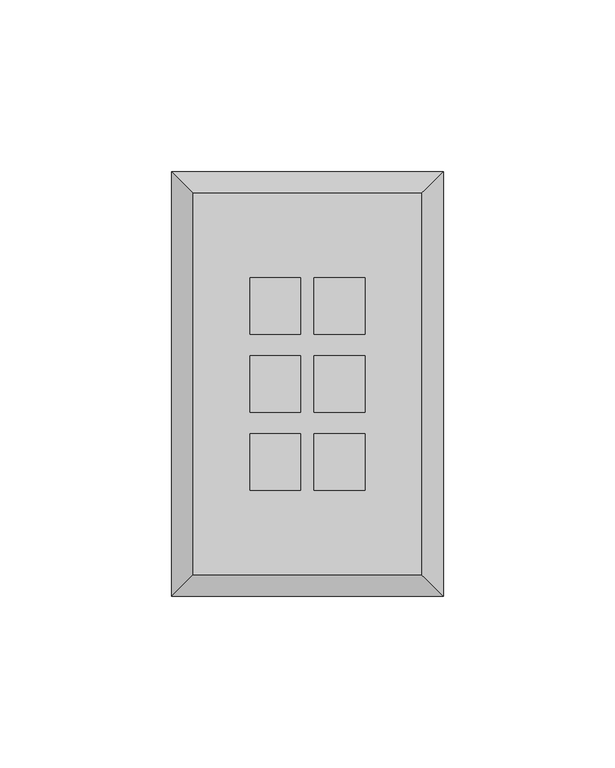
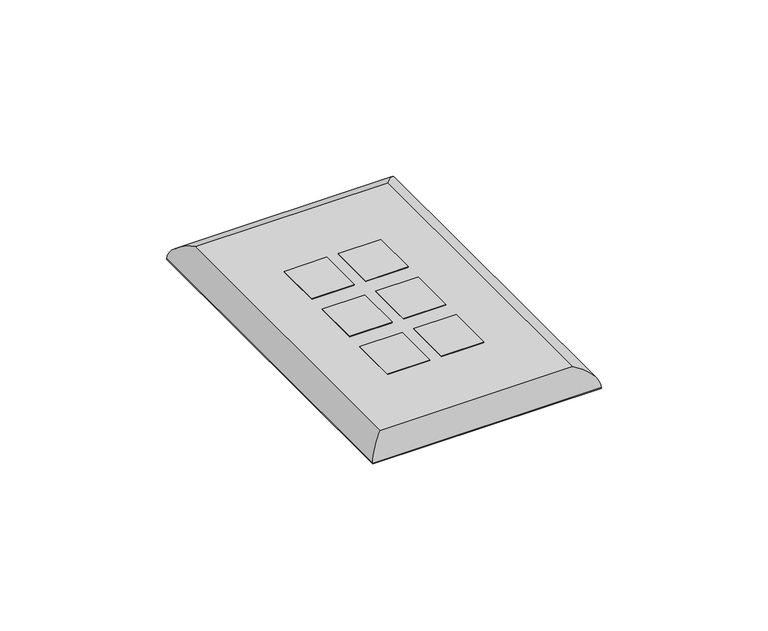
"""IFC4 building model written with IfcOpenShell, lengths in millimetres: electric appliance geometry, Data_Device-Work_Area-Leviton-QuickPort-Wallplate : 6 Ports, Single Gang, Midsize."""

import ifcopenshell
import ifcopenshell.guid

model = None  # the IFC model being written
_history = None  # IfcOwnerHistory: only IFC2X3 demands one
_inside = {}  # id of a spatial element -> (the spatial element, [elements in it])
_under = {}  # id of a project, library or spatial element -> (it, [spatial elements below it])
_declared = {}  # id of a project -> (the project, [libraries it declares])
_typed = {}  # id of a type object -> (the type object, [elements of that type])
_made_of = {}  # id of a material, layer set ... -> (it, [elements and type objects made of it])


def new_model(schema):
    """Start an empty IFC model of exactly this schema.

    Asked for "IFC4X3", IfcOpenShell would pick the latest addendum, in which some entities
    have other attributes; the version numbers below select the first issue.
    IFC2X3 requires an IfcOwnerHistory on every rooted entity: one is made here for all.
    """
    global model, _history
    if schema == "IFC4X3":
        model = ifcopenshell.file(schema_version=(4, 3, 0, 0))
    else:
        model = ifcopenshell.file(schema=schema)
    _inside.clear()
    _under.clear()
    _declared.clear()
    _typed.clear()
    _made_of.clear()
    _history = None
    if model.schema == "IFC2X3":
        org = make("IfcOrganization", Name="unknown")
        user = make(
            "IfcPersonAndOrganization",
            ThePerson=make("IfcPerson", FamilyName="unknown"),
            TheOrganization=org,
        )
        app = make(
            "IfcApplication",
            ApplicationDeveloper=org,
            Version="unknown",
            ApplicationFullName="unknown",
            ApplicationIdentifier="unknown",
        )
        _history = make(
            "IfcOwnerHistory",
            OwningUser=user,
            OwningApplication=app,
            ChangeAction="ADDED",
            CreationDate=0,
        )
    return model


def make(cls, **values):
    """One entity of the class cls with the attributes given. An attribute that is None is left unset."""
    return model.create_entity(
        cls, **{name: value for name, value in values.items() if value is not None}
    )


def rooted(cls, **values):
    """An entity with a GlobalId (a new one), such as an element, a storey or a relation."""
    return make(cls, GlobalId=ifcopenshell.guid.new(), OwnerHistory=_history, **values)


def si_unit(unit_type, name, prefix=None):
    """IfcSIUnit, for example si_unit("LENGTHUNIT", "METRE", prefix="MILLI")."""
    return make("IfcSIUnit", UnitType=unit_type, Prefix=prefix, Name=name)


def assignment(units):
    """IfcUnitAssignment: the units of a project."""
    return None if units is None else make("IfcUnitAssignment", Units=units)


def point(xyz):
    """IfcCartesianPoint."""
    return None if xyz is None else make("IfcCartesianPoint", Coordinates=xyz)


def direction(xyz):
    """IfcDirection."""
    return None if xyz is None else make("IfcDirection", DirectionRatios=xyz)


def frame(location, z_axis=None, x_axis=None):
    """IfcAxis2Placement3D, a coordinate frame: its origin and axes. An axis left out is left unset."""
    return make(
        "IfcAxis2Placement3D",
        Location=point(location),
        Axis=direction(z_axis),
        RefDirection=direction(x_axis),
    )


def origin():
    """The frame at (0, 0, 0) with its axes left unset."""
    return frame((0.0, 0.0, 0.0))


def origin_with_axes():
    """The frame at (0, 0, 0) with the z axis (0, 0, 1) and the x axis (1, 0, 0) written out."""
    return frame((0.0, 0.0, 0.0), z_axis=(0.0, 0.0, 1.0), x_axis=(1.0, 0.0, 0.0))


def place(relative_to, where):
    """IfcLocalPlacement: puts the frame where relative to a parent placement (None: the world)."""
    return make(
        "IfcLocalPlacement", PlacementRelTo=relative_to, RelativePlacement=where
    )


def context(
    kind, dimensions, precision=None, world=None, true_north=None, identifier=None
):
    """IfcGeometricRepresentationContext, for example the 3D "Model" context."""
    return make(
        "IfcGeometricRepresentationContext",
        ContextIdentifier=identifier,
        ContextType=kind,
        CoordinateSpaceDimension=dimensions,
        Precision=precision,
        WorldCoordinateSystem=world,
        TrueNorth=true_north,
    )


def project(units=None, contexts=None):
    """IfcProject with its units and contexts."""
    return rooted(
        "IfcProject",
        Name="project",
        RepresentationContexts=contexts,
        UnitsInContext=assignment(units),
    )


def spatial(cls, under=None, at=None, **own):
    """A site, building, storey or space (cls), placed at a placement, below another one or the project."""
    s = rooted(cls, ObjectPlacement=at, **own)
    if under is not None:
        _under.setdefault(under.id(), (under, []))[1].append(s)
    return s


def polyline(points):
    """IfcPolyline through the points."""
    return make("IfcPolyline", Points=[point(p) for p in points])


def ellipse_curve(where, semi_axis1, semi_axis2):
    """IfcEllipse in the frame where."""
    return make(
        "IfcEllipse", Position=where, SemiAxis1=semi_axis1, SemiAxis2=semi_axis2
    )


def outline(outer, holes=None, kind="AREA"):
    """IfcArbitraryClosedProfileDef: a profile drawn as a closed curve; with holes, ...WithVoids."""
    if holes is None:
        return make("IfcArbitraryClosedProfileDef", ProfileType=kind, OuterCurve=outer)
    return make(
        "IfcArbitraryProfileDefWithVoids",
        ProfileType=kind,
        OuterCurve=outer,
        InnerCurves=holes,
    )


def extrude(swept, where, along, depth):
    """IfcExtrudedAreaSolid: the profile swept, set in the frame where, extruded along a direction by depth."""
    return make(
        "IfcExtrudedAreaSolid",
        SweptArea=swept,
        Position=where,
        ExtrudedDirection=direction(along),
        Depth=depth,
    )


def shape(context_of_items, identifier, shape_type, items):
    """IfcShapeRepresentation: the items that make up one representation, for example the "Body"."""
    return make(
        "IfcShapeRepresentation",
        ContextOfItems=context_of_items,
        RepresentationIdentifier=identifier,
        RepresentationType=shape_type,
        Items=items,
    )


def source(mapping_origin, context_of_items, identifier, shape_type, items):
    """IfcRepresentationMap: a shape defined once, which mapped items show again and again."""
    return make(
        "IfcRepresentationMap",
        MappingOrigin=mapping_origin,
        MappedRepresentation=shape(context_of_items, identifier, shape_type, items),
    )


def transform(
    local_origin,
    x_axis=None,
    y_axis=None,
    z_axis=None,
    scale=None,
    scale2=None,
    scale3=None,
    uniform=True,
):
    """IfcCartesianTransformationOperator3D, or its non-uniform kind. x_axis, y_axis, z_axis: its Axis1, 2, 3."""
    if uniform:
        return make(
            "IfcCartesianTransformationOperator3D",
            Axis1=direction(x_axis),
            Axis2=direction(y_axis),
            LocalOrigin=point(local_origin),
            Scale=scale,
            Axis3=direction(z_axis),
        )
    return make(
        "IfcCartesianTransformationOperator3DnonUniform",
        Axis1=direction(x_axis),
        Axis2=direction(y_axis),
        LocalOrigin=point(local_origin),
        Scale=scale,
        Axis3=direction(z_axis),
        Scale2=scale2,
        Scale3=scale3,
    )


def mapped(mapping_source, mapping_target):
    """IfcMappedItem: shows the shape of a source again, moved by a transform."""
    return make(
        "IfcMappedItem", MappingSource=mapping_source, MappingTarget=mapping_target
    )


def made_of(thing, what):
    """Note that an element or type object is made of a material, layer set ...; save() writes the relation."""
    if what is not None:
        _made_of.setdefault(what.id(), (what, []))[1].append(thing)
    return thing


def element(
    cls,
    number,
    at=None,
    inside=None,
    cuts=None,
    type_object=None,
    material=None,
    context=None,
    identifier="Body",
    shape_type=None,
    held_by="IfcProductDefinitionShape",
    body=None,
    shapes=None,
    **own,
):
    """One element of the class cls, such as IfcWall. Its Tag is "e" and its number.

    at: its placement. inside: the storey or other place that contains it. cuts: it is an
    opening in that element (IfcRelVoidsElement). A single representation is given by context,
    identifier, shape_type and body (its items); several are given by shapes. held_by: the class
    of the entity that holds the representations. save() writes the other relations.
    """
    e = rooted(cls, Tag="e%d" % number, ObjectPlacement=at, **own)
    if body is not None:
        shapes = [shape(context, identifier, shape_type, body)]
    if shapes is not None:
        e.Representation = make(held_by, Representations=shapes)
    if inside is not None:
        _inside.setdefault(inside.id(), (inside, []))[1].append(e)
    if cuts is not None:
        rooted(
            "IfcRelVoidsElement", RelatingBuildingElement=cuts, RelatedOpeningElement=e
        )
    if type_object is not None:
        _typed.setdefault(type_object.id(), (type_object, []))[1].append(e)
    return made_of(e, material)


def aggregate(whole, parts):
    """IfcRelAggregates: a whole, such as a stair, and the parts it consists of."""
    return rooted("IfcRelAggregates", RelatingObject=whole, RelatedObjects=parts)


def save(model, path):
    """Write the relations noted so far, then the file.

    IfcRelAggregates (storeys below a building ...), IfcRelContainedInSpatialStructure (elements
    in a storey), IfcRelDefinesByType, IfcRelAssociatesMaterial and IfcRelDeclares: one each for
    every whole, place, type object, material and project.
    """
    for whole, parts in _under.values():
        aggregate(whole, parts)
    for where, things in _inside.values():
        rooted(
            "IfcRelContainedInSpatialStructure",
            RelatedElements=things,
            RelatingStructure=where,
        )
    for kind, things in _typed.values():
        rooted("IfcRelDefinesByType", RelatedObjects=things, RelatingType=kind)
    for what, things in _made_of.values():
        rooted("IfcRelAssociatesMaterial", RelatedObjects=things, RelatingMaterial=what)
    for by, libraries in _declared.values():
        rooted("IfcRelDeclares", RelatingContext=by, RelatedDefinitions=libraries)
    model.write(path)


def plane_surface(at):
    """IfcPlane: the flat surface through the origin of the frame at, square to its z axis."""
    return make("IfcPlane", Position=at)


def cylinder_surface(at, radius):
    """IfcCylindricalSurface: all points at the distance radius from the z axis of the frame at."""
    return make("IfcCylindricalSurface", Position=at, Radius=radius)


def advanced_brep(points, edges, surfaces, faces):
    """IfcAdvancedBrep: a solid bounded by faces that lie on surfaces and meet in shared edges.

    An edge is (start, end): straight between two places in points (the first is 0);
    or (start, end, curve); or (start, end, curve, False) where it runs against its curve.
    A face is (place in surfaces, loops), or (place, loops, False) where it looks against
    its surface's normal. A loop lists edges by number (the first is 1), with a minus sign
    where the edge is run from its end to its start. The first loop is the outer one.
    """
    corners = [point(p) for p in points]
    vertices = [make("IfcVertexPoint", VertexGeometry=c) for c in corners]
    made = []
    for start, end, *more in edges:
        made.append(
            make(
                "IfcEdgeCurve",
                EdgeStart=vertices[start],
                EdgeEnd=vertices[end],
                EdgeGeometry=more[0] if more else make("IfcPolyline", Points=[corners[start], corners[end]]),
                SameSense=more[1] if len(more) > 1 else True,
            )
        )
    hull = []
    for where, loops, *sense in faces:
        bounds = []
        for j, loop in enumerate(loops):
            ring = [make("IfcOrientedEdge", EdgeElement=made[abs(k) - 1], Orientation=k > 0) for k in loop]
            bounds.append(
                make(
                    "IfcFaceOuterBound" if j == 0 else "IfcFaceBound",
                    Bound=make("IfcEdgeLoop", EdgeList=ring),
                    Orientation=True,
                )
            )
        hull.append(make("IfcAdvancedFace", Bounds=bounds, FaceSurface=surfaces[where], SameSense=sense[0] if sense else True))
    return make("IfcAdvancedBrep", Outer=make("IfcClosedShell", CfsFaces=hull))


def electric_appliance_a91dbcae(model_context):
    return source(origin(), model_context, "Body", "SolidModel", [
        extrude(outline(polyline([(-24.9936, 16.4465), (-24.9936, -0.0635), (-39.7256, -0.0635), (-39.7256, 16.4465), (-24.9936, 16.4465)])), origin_with_axes(), (0.0, 0.0, 1.0), 6.35),
        extrude(outline(polyline([(-24.9936, 39.1795), (-24.9936, 22.6695), (-39.7256, 22.6695), (-39.7256, 39.1795), (-24.9936, 39.1795)])), origin_with_axes(), (0.0, 0.0, 1.0), 6.35),
        extrude(outline(polyline([(-24.9936, -6.2865), (-24.9936, -22.7965), (-39.7256, -22.7965), (-39.7256, -6.2865), (-24.9936, -6.2865)])), origin_with_axes(), (0.0, 0.0, 1.0), 6.35),
        extrude(outline(polyline([(-6.3246, 16.4465), (-6.3246, -0.0635), (-21.0566, -0.0635), (-21.0566, 16.4465), (-6.3246, 16.4465)])), origin_with_axes(), (0.0, 0.0, 1.0), 6.35),
        extrude(outline(polyline([(-6.3246, 39.1795), (-6.3246, 22.6695), (-21.0566, 22.6695), (-21.0566, 39.1795), (-6.3246, 39.1795)])), origin_with_axes(), (0.0, 0.0, 1.0), 6.35),
        extrude(outline(polyline([(-6.3246, -6.2865), (-6.3246, -22.7965), (-21.0566, -22.7965), (-21.0566, -6.2865), (-6.3246, -6.2865)])), origin_with_axes(), (0.0, 0.0, 1.0), 6.35),
        advanced_brep(
        [(10.2489, -47.3075, 6.35), (10.2489, 63.6905, 6.35), (-56.2991, 63.6905, 6.35), (-56.2991, -47.3075, 6.35), (-39.7256, 39.1795, 6.35), (-24.9936, 39.1795, 6.35), (-24.9936, 22.6695, 6.35), (-39.7256, 22.6695, 6.35), (-39.7256, 16.4465, 6.35), (-24.9936, 16.4465, 6.35), (-24.9936, -0.0635, 6.35), (-39.7256, -0.0635, 6.35), (-39.7256, -6.2865, 6.35), (-24.9936, -6.2865, 6.35), (-24.9936, -22.7965, 6.35), (-39.7256, -22.7965, 6.35), (-21.0566, 39.1795, 6.35), (-6.3246, 39.1795, 6.35), (-6.3246, 22.6695, 6.35), (-21.0566, 22.6695, 6.35), (-21.0566, 16.4465, 6.35), (-6.3246, 16.4465, 6.35), (-6.3246, -0.0635, 6.35), (-21.0566, -0.0635, 6.35), (-21.0566, -6.2865, 6.35), (-6.3246, -6.2865, 6.35), (-6.3246, -22.7965, 6.35), (-21.0566, -22.7965, 6.35), (16.5989, 70.0405, 0.0), (16.5989, -53.6575, 0.0), (-62.6491, -53.6575, 0.0), (-62.6491, 70.0405, 0.0), (-24.9936, 39.1795, 0.0), (-39.7256, 39.1795, 0.0), (-39.7256, 22.6695, 0.0), (-24.9936, 22.6695, 0.0), (-24.9936, 16.4465, 0.0), (-39.7256, 16.4465, 0.0), (-39.7256, -0.0635, 0.0), (-24.9936, -0.0635, 0.0), (-24.9936, -6.2865, 0.0), (-39.7256, -6.2865, 0.0), (-39.7256, -22.7965, 0.0), (-24.9936, -22.7965, 0.0), (-6.3246, 39.1795, 0.0), (-21.0566, 39.1795, 0.0), (-21.0566, 22.6695, 0.0), (-6.3246, 22.6695, 0.0), (-6.3246, 16.4465, 0.0), (-21.0566, 16.4465, 0.0), (-21.0566, -0.0635, 0.0), (-6.3246, -0.0635, 0.0), (-6.3246, -6.2865, 0.0), (-21.0566, -6.2865, 0.0), (-21.0566, -22.7965, 0.0), (-6.3246, -22.7965, 0.0), (-62.6491, 70.0405, 0.254), (16.5989, 70.0405, 0.254), (-62.6491, -53.6575, 0.254), (16.5989, -53.6575, 0.254)],
        [
            (0, 1),
            (1, 2),
            (2, 3),
            (3, 0),
            (4, 5),
            (5, 6),
            (6, 7),
            (7, 4),
            (8, 9),
            (9, 10),
            (10, 11),
            (11, 8),
            (12, 13),
            (13, 14),
            (14, 15),
            (15, 12),
            (16, 17),
            (17, 18),
            (18, 19),
            (19, 16),
            (20, 21),
            (21, 22),
            (22, 23),
            (23, 20),
            (24, 25),
            (25, 26),
            (26, 27),
            (27, 24),
            (28, 29),
            (29, 30),
            (30, 31),
            (31, 28),
            (32, 33),
            (33, 34),
            (34, 35),
            (35, 32),
            (36, 37),
            (37, 38),
            (38, 39),
            (39, 36),
            (40, 41),
            (41, 42),
            (42, 43),
            (43, 40),
            (44, 45),
            (45, 46),
            (46, 47),
            (47, 44),
            (48, 49),
            (49, 50),
            (50, 51),
            (51, 48),
            (52, 53),
            (53, 54),
            (54, 55),
            (55, 52),
            (31, 56),
            (56, 57),
            (57, 28),
            (30, 58),
            (58, 56),
            (29, 59),
            (59, 58),
            (57, 59),
            (4, 33),
            (32, 5),
            (7, 34),
            (6, 35),
            (8, 37),
            (36, 9),
            (11, 38),
            (10, 39),
            (12, 41),
            (40, 13),
            (15, 42),
            (14, 43),
            (16, 45),
            (44, 17),
            (19, 46),
            (18, 47),
            (20, 49),
            (48, 21),
            (23, 50),
            (22, 51),
            (24, 53),
            (52, 25),
            (27, 54),
            (26, 55),
            (0, 59, ellipse_curve(frame((10.2489, -47.3075, -0.0052917), z_axis=(0.7071067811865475, 0.7071067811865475, 0.0), x_axis=(0.7071067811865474, -0.7071067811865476, 0.0)), 8.9877397, 6.3552917)),
            (57, 1, ellipse_curve(frame((10.2489, 63.6905, -0.0052917), z_axis=(0.7071067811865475, -0.7071067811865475, 0.0), x_axis=(-0.7071067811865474, -0.7071067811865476, 0.0)), 8.9877397, 6.3552917)),
            (3, 58, ellipse_curve(frame((-56.2991, -47.3075, -0.0052917), z_axis=(0.7071067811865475, -0.7071067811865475, 0.0), x_axis=(-0.7071067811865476, -0.7071067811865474, 0.0)), 8.9877397, 6.3552917)),
            (2, 56, ellipse_curve(frame((-56.2991, 63.6905, -0.0052917), z_axis=(-0.7071067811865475, -0.7071067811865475, 0.0), x_axis=(-0.7071067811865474, 0.7071067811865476, 0.0)), 8.9877397, 6.3552917)),
        ],
        [
            plane_surface(frame((-62.6491, 70.0405, 6.35), z_axis=(0.0, 0.0, 1.0), x_axis=(-1.0, 0.0, 0.0))),
            plane_surface(frame((-62.6491, 70.0405, 0.0), z_axis=(0.0, 0.0, -1.0), x_axis=(1.0, 0.0, 0.0))),
            plane_surface(frame((16.5989, 70.0405, 6.35), z_axis=(0.0, 1.0, 0.0), x_axis=(0.0, 0.0, -1.0))),
            plane_surface(frame((-62.6491, 70.0405, 6.35), z_axis=(-1.0, 0.0, 0.0), x_axis=(0.0, 0.0, -1.0))),
            plane_surface(frame((-62.6491, -53.6575, 6.35), z_axis=(0.0, -1.0, 0.0), x_axis=(0.0, 0.0, -1.0))),
            plane_surface(frame((16.5989, -53.6575, 6.35), z_axis=(1.0, 0.0, 0.0), x_axis=(0.0, 0.0, -1.0))),
            plane_surface(frame((-24.9936, 39.1795, 6.35), z_axis=(0.0, -1.0, 0.0), x_axis=(0.0, 0.0, -1.0))),
            plane_surface(frame((-39.7256, 39.1795, 6.35), z_axis=(1.0, 0.0, 0.0), x_axis=(0.0, 0.0, -1.0))),
            plane_surface(frame((-39.7256, 22.6695, 6.35), z_axis=(0.0, 1.0, 0.0), x_axis=(0.0, 0.0, -1.0))),
            plane_surface(frame((-24.9936, 22.6695, 6.35), z_axis=(-1.0, 0.0, 0.0), x_axis=(0.0, 0.0, -1.0))),
            plane_surface(frame((-24.9936, 16.4465, 6.35), z_axis=(0.0, -1.0, 0.0), x_axis=(0.0, 0.0, -1.0))),
            plane_surface(frame((-39.7256, 16.4465, 6.35), z_axis=(1.0, 0.0, 0.0), x_axis=(0.0, 0.0, -1.0))),
            plane_surface(frame((-39.7256, -0.0635, 6.35), z_axis=(0.0, 1.0, 0.0), x_axis=(0.0, 0.0, -1.0))),
            plane_surface(frame((-24.9936, -0.0635, 6.35), z_axis=(-1.0, 0.0, 0.0), x_axis=(0.0, 0.0, -1.0))),
            plane_surface(frame((-24.9936, -6.2865, 6.35), z_axis=(0.0, -1.0, 0.0), x_axis=(0.0, 0.0, -1.0))),
            plane_surface(frame((-39.7256, -6.2865, 6.35), z_axis=(1.0, 0.0, 0.0), x_axis=(0.0, 0.0, -1.0))),
            plane_surface(frame((-39.7256, -22.7965, 6.35), z_axis=(0.0, 1.0, 0.0), x_axis=(0.0, 0.0, -1.0))),
            plane_surface(frame((-24.9936, -22.7965, 6.35), z_axis=(-1.0, 0.0, 0.0), x_axis=(0.0, 0.0, -1.0))),
            plane_surface(frame((-6.3246, 39.1795, 6.35), z_axis=(0.0, -1.0, 0.0), x_axis=(0.0, 0.0, -1.0))),
            plane_surface(frame((-21.0566, 39.1795, 6.35), z_axis=(1.0, 0.0, 0.0), x_axis=(0.0, 0.0, -1.0))),
            plane_surface(frame((-21.0566, 22.6695, 6.35), z_axis=(0.0, 1.0, 0.0), x_axis=(0.0, 0.0, -1.0))),
            plane_surface(frame((-6.3246, 22.6695, 6.35), z_axis=(-1.0, 0.0, 0.0), x_axis=(0.0, 0.0, -1.0))),
            plane_surface(frame((-6.3246, 16.4465, 6.35), z_axis=(0.0, -1.0, 0.0), x_axis=(0.0, 0.0, -1.0))),
            plane_surface(frame((-21.0566, 16.4465, 6.35), z_axis=(1.0, 0.0, 0.0), x_axis=(0.0, 0.0, -1.0))),
            plane_surface(frame((-21.0566, -0.0635, 6.35), z_axis=(0.0, 1.0, 0.0), x_axis=(0.0, 0.0, -1.0))),
            plane_surface(frame((-6.3246, -0.0635, 6.35), z_axis=(-1.0, 0.0, 0.0), x_axis=(0.0, 0.0, -1.0))),
            plane_surface(frame((-6.3246, -6.2865, 6.35), z_axis=(0.0, -1.0, 0.0), x_axis=(0.0, 0.0, -1.0))),
            plane_surface(frame((-21.0566, -6.2865, 6.35), z_axis=(1.0, 0.0, 0.0), x_axis=(0.0, 0.0, -1.0))),
            plane_surface(frame((-21.0566, -22.7965, 6.35), z_axis=(0.0, 1.0, 0.0), x_axis=(0.0, 0.0, -1.0))),
            plane_surface(frame((-6.3246, -22.7965, 6.35), z_axis=(-1.0, 0.0, 0.0), x_axis=(0.0, 0.0, -1.0))),
            cylinder_surface(frame((10.2489, 70.0405, -0.0052917), z_axis=(0.0, -1.0, 0.0), x_axis=(1.0, 0.0, 0.0)), 6.3552917),
            cylinder_surface(frame((16.5989, -47.3075, -0.0052917), z_axis=(-1.0, 0.0, 0.0), x_axis=(0.0, -1.0, 0.0)), 6.3552917),
            cylinder_surface(frame((-56.2991, -53.6575, -0.0052917), z_axis=(0.0, 1.0, 0.0), x_axis=(-1.0, 0.0, 0.0)), 6.3552917),
            cylinder_surface(frame((-62.6491, 63.6905, -0.0052917), z_axis=(1.0, 0.0, 0.0), x_axis=(0.0, 1.0, 0.0)), 6.3552917),
        ],
        [
            (0, [[1, 2, 3, 4], [5, 6, 7, 8], [9, 10, 11, 12], [13, 14, 15, 16], [17, 18, 19, 20], [21, 22, 23, 24], [25, 26, 27, 28]]),
            (1, [[29, 30, 31, 32], [33, 34, 35, 36], [37, 38, 39, 40], [41, 42, 43, 44], [45, 46, 47, 48], [49, 50, 51, 52], [53, 54, 55, 56]]),
            (2, [[-32, 57, 58, 59]]),
            (3, [[-31, 60, 61, -57]]),
            (4, [[-30, 62, 63, -60]]),
            (5, [[-29, -59, 64, -62]]),
            (6, [[65, -33, 66, -5]]),
            (7, [[-65, -8, 67, -34]]),
            (8, [[-67, -7, 68, -35]]),
            (9, [[-66, -36, -68, -6]]),
            (10, [[69, -37, 70, -9]]),
            (11, [[-69, -12, 71, -38]]),
            (12, [[-71, -11, 72, -39]]),
            (13, [[-70, -40, -72, -10]]),
            (14, [[73, -41, 74, -13]]),
            (15, [[-73, -16, 75, -42]]),
            (16, [[-75, -15, 76, -43]]),
            (17, [[-74, -44, -76, -14]]),
            (18, [[77, -45, 78, -17]]),
            (19, [[-77, -20, 79, -46]]),
            (20, [[-79, -19, 80, -47]]),
            (21, [[-78, -48, -80, -18]]),
            (22, [[81, -49, 82, -21]]),
            (23, [[-81, -24, 83, -50]]),
            (24, [[-83, -23, 84, -51]]),
            (25, [[-82, -52, -84, -22]]),
            (26, [[85, -53, 86, -25]]),
            (27, [[-85, -28, 87, -54]]),
            (28, [[-87, -27, 88, -55]]),
            (29, [[-86, -56, -88, -26]]),
            (30, [[89, -64, 90, -1]]),
            (31, [[-89, -4, 91, -63]]),
            (32, [[-91, -3, 92, -61]]),
            (33, [[-90, -58, -92, -2]]),
        ],
    ),
        extrude(outline(polyline([(16.3449, 69.7865), (16.3449, -53.4035), (-62.3951, -53.4035), (-62.3951, 69.7865), (16.3449, 69.7865)]), holes=[polyline([(-24.9936, 39.1795), (-39.7256, 39.1795), (-39.7256, 22.6695), (-24.9936, 22.6695), (-24.9936, 39.1795)]), polyline([(-24.9936, 16.4465), (-39.7256, 16.4465), (-39.7256, -0.0635), (-24.9936, -0.0635), (-24.9936, 16.4465)]), polyline([(-24.9936, -6.2865), (-39.7256, -6.2865), (-39.7256, -22.7965), (-24.9936, -22.7965), (-24.9936, -6.2865)]), polyline([(-6.3246, 39.1795), (-21.0566, 39.1795), (-21.0566, 22.6695), (-6.3246, 22.6695), (-6.3246, 39.1795)]), polyline([(-6.3246, 16.4465), (-21.0566, 16.4465), (-21.0566, -0.0635), (-6.3246, -0.0635), (-6.3246, 16.4465)]), polyline([(-6.3246, -6.2865), (-21.0566, -6.2865), (-21.0566, -22.7965), (-6.3246, -22.7965), (-6.3246, -6.2865)])]), origin_with_axes(), (0.0, 0.0, 1.0), 0.254),
    ])


if __name__ == "__main__":
    model = new_model("IFC4")
    model_context = context("Model", 3, world=origin())
    ifc_project = project(units=[si_unit("LENGTHUNIT", "METRE", prefix="MILLI")], contexts=[model_context])
    site = spatial("IfcSite", under=ifc_project)
    building = spatial("IfcBuilding", under=site)
    placement = place(None, origin())
    electric_appliance_shape = electric_appliance_a91dbcae(model_context)
    element("IfcElectricAppliance", 1, ObjectType="Data_Device-Work_Area-Leviton-QuickPort-Wallplate : 6 Ports, Single Gang, Midsize", at=placement, inside=building, context=model_context, shape_type="MappedRepresentation", body=[
        mapped(electric_appliance_shape, transform((0.0, 0.0, 0.0), x_axis=(1.0, 0.0, 0.0), y_axis=(0.0, 1.0, 0.0), z_axis=(0.0, 0.0, 1.0))),
    ])
    save(model, "model.ifc")
